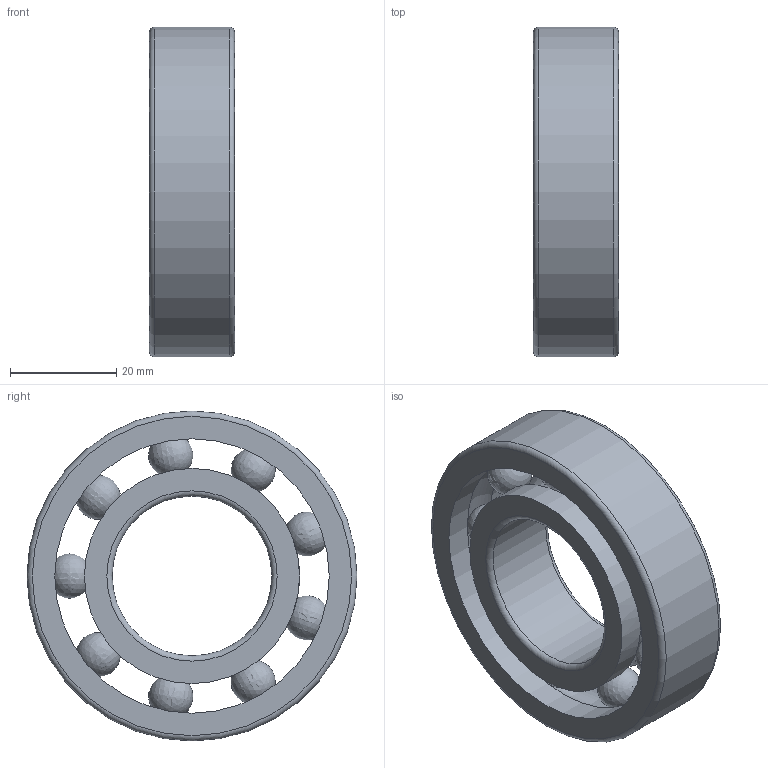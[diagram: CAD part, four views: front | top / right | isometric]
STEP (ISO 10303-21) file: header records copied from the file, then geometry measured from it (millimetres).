
FILE_DESCRIPTION(/* description */ ('깊은 그루부 볼 베어링'),/* implementation_level */ '2;1');
FILE_NAME(/* name */ '',/* time_stamp */ '2025-05-23T15:52:49+09:00',/* author */ ('jhkim'),/* organization */ (''),/* preprocessor_version */ 'ST-DEVELOPER v20.1',/* originating_system */ 'Autodesk Inventor 2026',/* authorisation */ '');
FILE_SCHEMA (('AUTOMOTIVE_DESIGN { 1 0 10303 214 3 1 1 }'));
Length unit declared in the file: millimetre
Products named in the file (1): 깊은 홈 볼 베어링 
6206
Bounding box: 16 x 62 x 62 mm (x, y, z)
Volume: 25008.6 mm3; surface area: 14200.5 mm2
Topology: 11 solids, 11 shells, 41 faces, 111 edges, 74 vertices
Faces by surface type: torus 22, sphere 9, cylinder 6, plane 4
Full cylindrical faces by diameter (mm): 30 x1, 40.432 x2, 51.568 x2, 62 x1
Entity records: 1555 total; most frequent: DIRECTION 300, CARTESIAN_POINT 263, ORIENTED_EDGE 222, AXIS2_PLACEMENT_3D 147, EDGE_CURVE 111, VERTEX_POINT 110, CIRCLE 105, EDGE_LOOP 63
